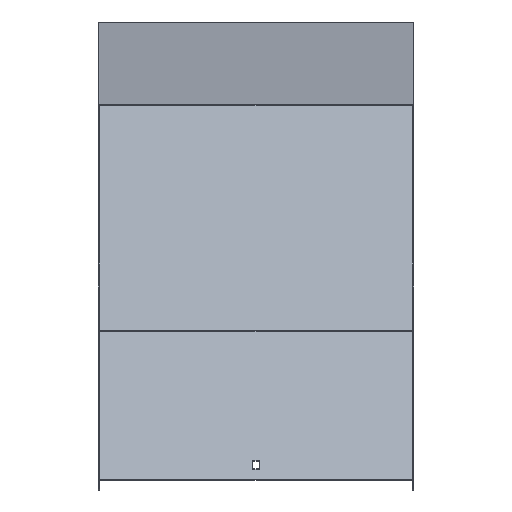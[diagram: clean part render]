
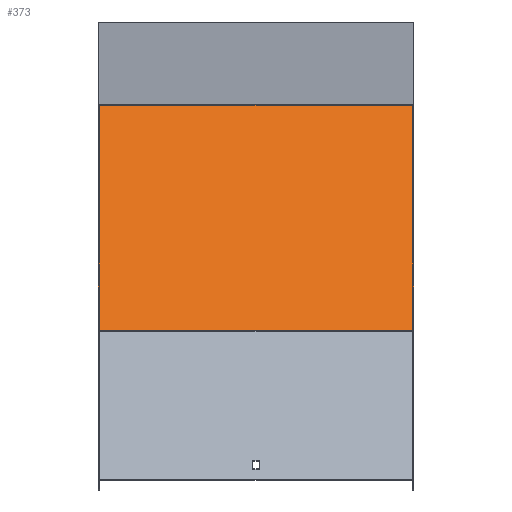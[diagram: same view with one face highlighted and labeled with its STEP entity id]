
A CAD part, top view. The second image highlights one B-rep face of the part: STEP entity #373.
In plain terms, the highlighted planar face has unit normal (0, 0.707, 0.707).
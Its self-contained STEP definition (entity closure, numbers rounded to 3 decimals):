
#18 = CARTESIAN_POINT ( 'NONE',  ( 151.5, -59.455, 462.165 ) ) ;
#48 = VECTOR ( 'NONE', #636, 1000. ) ;
#59 = ORIENTED_EDGE ( 'NONE', *, *, #910, .T. ) ;
#88 = EDGE_LOOP ( 'NONE', ( #59, #192, #286, #753 ) ) ;
#95 = EDGE_CURVE ( 'NONE', #985, #895, #438, .T. ) ;
#107 = VERTEX_POINT ( 'NONE', #288 ) ;
#121 = CARTESIAN_POINT ( 'NONE',  ( 151.5, -59.455, 462.165 ) ) ;
#192 = ORIENTED_EDGE ( 'NONE', *, *, #541, .F. ) ;
#193 = VECTOR ( 'NONE', #327, 1000. ) ;
#197 = CARTESIAN_POINT ( 'NONE',  ( -151.5, -59.455, 462.165 ) ) ;
#222 = CARTESIAN_POINT ( 'NONE',  ( 151.5, -276.532, 679.241 ) ) ;
#251 = CARTESIAN_POINT ( 'NONE',  ( 151.5, -276.532, 679.241 ) ) ;
#286 = ORIENTED_EDGE ( 'NONE', *, *, #95, .F. ) ;
#288 = CARTESIAN_POINT ( 'NONE',  ( -151.5, -276.532, 679.241 ) ) ;
#298 = FACE_OUTER_BOUND ( 'NONE', #88, .T. ) ;
#316 = DIRECTION ( 'NONE',  ( -1., 0., 0. ) ) ;
#327 = DIRECTION ( 'NONE',  ( -1., 0., 0. ) ) ;
#371 = CARTESIAN_POINT ( 'NONE',  ( 151.5, -63.245, 465.954 ) ) ;
#373 = ADVANCED_FACE ( 'NONE', ( #298 ), #463, .F. ) ;
#376 = VECTOR ( 'NONE', #887, 1000. ) ;
#438 = LINE ( 'NONE', #667, #376 ) ;
#463 = PLANE ( 'NONE',  #662 ) ;
#482 = LINE ( 'NONE', #251, #193 ) ;
#541 = EDGE_CURVE ( 'NONE', #895, #107, #482, .T. ) ;
#608 = VERTEX_POINT ( 'NONE', #197 ) ;
#630 = LINE ( 'NONE', #937, #48 ) ;
#636 = DIRECTION ( 'NONE',  ( 0., -0.707, 0.707 ) ) ;
#662 = AXIS2_PLACEMENT_3D ( 'NONE', #371, #906, #677 ) ;
#667 = CARTESIAN_POINT ( 'NONE',  ( 151.5, -63.245, 465.954 ) ) ;
#677 = DIRECTION ( 'NONE',  ( 0., 0.707, -0.707 ) ) ;
#711 = EDGE_CURVE ( 'NONE', #985, #608, #927, .T. ) ;
#712 = VECTOR ( 'NONE', #316, 1000. ) ;
#753 = ORIENTED_EDGE ( 'NONE', *, *, #711, .T. ) ;
#887 = DIRECTION ( 'NONE',  ( 0., -0.707, 0.707 ) ) ;
#895 = VERTEX_POINT ( 'NONE', #222 ) ;
#906 = DIRECTION ( 'NONE',  ( 0., -0.707, -0.707 ) ) ;
#910 = EDGE_CURVE ( 'NONE', #608, #107, #630, .T. ) ;
#927 = LINE ( 'NONE', #18, #712 ) ;
#937 = CARTESIAN_POINT ( 'NONE',  ( -151.5, -63.245, 465.954 ) ) ;
#985 = VERTEX_POINT ( 'NONE', #121 ) ;
